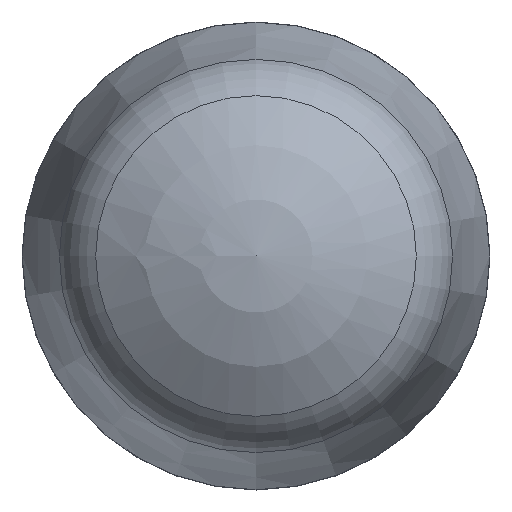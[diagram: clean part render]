
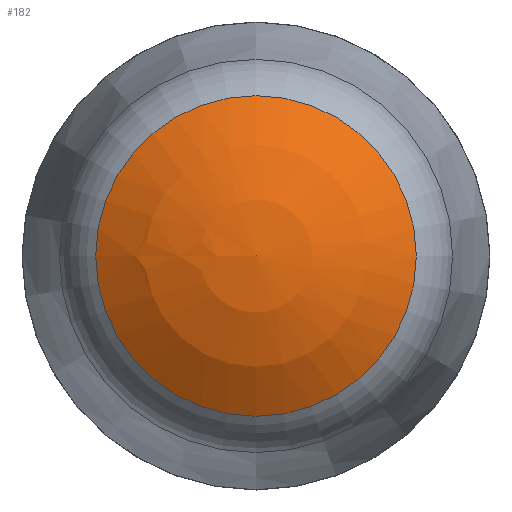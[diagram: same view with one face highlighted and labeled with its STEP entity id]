
A CAD part, front view. The second image highlights one B-rep face of the part: STEP entity #182.
In plain terms, the highlighted spherical face has radius 18 mm.
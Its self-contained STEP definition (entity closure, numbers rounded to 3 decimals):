
#182 = ADVANCED_FACE( '', ( #217, #218 ), #219, .T. );
#217 = FACE_BOUND( '', #293, .T. );
#218 = FACE_OUTER_BOUND( '', #294, .T. );
#219 = SPHERICAL_SURFACE( '', #295, 18. );
#293 = VERTEX_LOOP( '', #370 );
#294 = EDGE_LOOP( '', ( #371 ) );
#295 = AXIS2_PLACEMENT_3D( '', #372, #373, #374 );
#370 = VERTEX_POINT( '', #568 );
#371 = ORIENTED_EDGE( '', *, *, #567, .T. );
#372 = CARTESIAN_POINT( '', ( 0., 18., 0. ) );
#373 = DIRECTION( '', ( 0., -1., 0. ) );
#374 = DIRECTION( '', ( -1., 0., 0. ) );
#567 = EDGE_CURVE( '', #623, #623, #624, .T. );
#568 = CARTESIAN_POINT( '', ( 0., 0., 0. ) );
#623 = VERTEX_POINT( '', #711 );
#624 = CIRCLE( '', #712, 10.518 );
#711 = CARTESIAN_POINT( '', ( 0., 3.393, -10.518 ) );
#712 = AXIS2_PLACEMENT_3D( '', #942, #943, #944 );
#942 = CARTESIAN_POINT( '', ( 0., 3.393, 0. ) );
#943 = DIRECTION( '', ( 0., -1., 0. ) );
#944 = DIRECTION( '', ( 0., 0., -1. ) );
